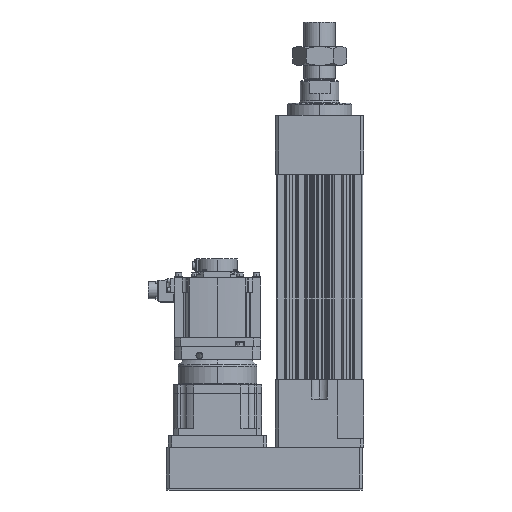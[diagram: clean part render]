
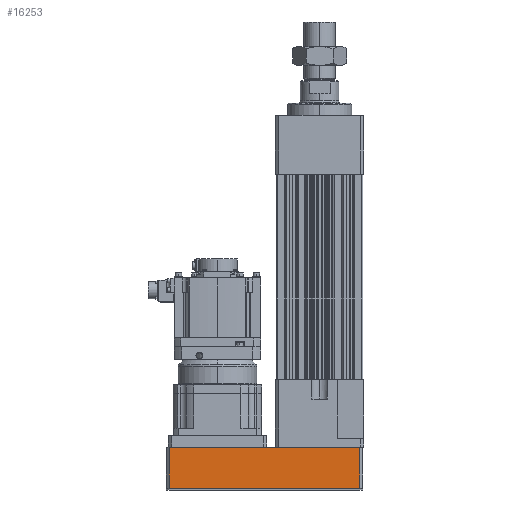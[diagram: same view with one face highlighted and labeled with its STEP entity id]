
A CAD part, left-side view. The second image highlights one B-rep face of the part: STEP entity #16253.
In plain terms, the highlighted planar face has unit normal (-1, 0, 0).
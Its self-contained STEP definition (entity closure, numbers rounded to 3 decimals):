
#169 = LINE ( 'NONE', #51107, #15032 ) ;
#1121 = AXIS2_PLACEMENT_3D ( 'NONE', #7954, #36911, #20633 ) ;
#1256 = CARTESIAN_POINT ( 'NONE',  ( -88., -82., -221.5 ) ) ;
#1890 = VECTOR ( 'NONE', #16634, 1000. ) ;
#1909 = CARTESIAN_POINT ( 'NONE',  ( -88., 306., -221.5 ) ) ;
#2976 = ORIENTED_EDGE ( 'NONE', *, *, #13399, .F. ) ;
#4490 = FACE_OUTER_BOUND ( 'NONE', #36728, .T. ) ;
#6521 = DIRECTION ( 'NONE',  ( 0., 0., 1. ) ) ;
#6634 = VERTEX_POINT ( 'NONE', #13767 ) ;
#7111 = EDGE_CURVE ( 'NONE', #20193, #24735, #37661, .T. ) ;
#7954 = CARTESIAN_POINT ( 'NONE',  ( -88., -82., -222. ) ) ;
#8496 = CARTESIAN_POINT ( 'NONE',  ( -88., -82., -138.5 ) ) ;
#9050 = EDGE_CURVE ( 'NONE', #32847, #6634, #14157, .T. ) ;
#13399 = EDGE_CURVE ( 'NONE', #20193, #6634, #44888, .T. ) ;
#13767 = CARTESIAN_POINT ( 'NONE',  ( -88., 306., -138.5 ) ) ;
#14157 = LINE ( 'NONE', #8496, #1890 ) ;
#14312 = VECTOR ( 'NONE', #18773, 1000. ) ;
#15032 = VECTOR ( 'NONE', #6521, 1000. ) ;
#16253 = ADVANCED_FACE ( 'NONE', ( #4490 ), #32759, .F. ) ;
#16634 = DIRECTION ( 'NONE',  ( 0., 1., 0. ) ) ;
#18098 = ORIENTED_EDGE ( 'NONE', *, *, #42753, .T. ) ;
#18773 = DIRECTION ( 'NONE',  ( 0., -1., 0. ) ) ;
#20193 = VERTEX_POINT ( 'NONE', #1909 ) ;
#20633 = DIRECTION ( 'NONE',  ( 0., 0., -1. ) ) ;
#21999 = ORIENTED_EDGE ( 'NONE', *, *, #7111, .T. ) ;
#22846 = VECTOR ( 'NONE', #49340, 1000. ) ;
#24735 = VERTEX_POINT ( 'NONE', #33376 ) ;
#28779 = CARTESIAN_POINT ( 'NONE',  ( -88., -82., -138.5 ) ) ;
#32759 = PLANE ( 'NONE',  #1121 ) ;
#32847 = VERTEX_POINT ( 'NONE', #28779 ) ;
#33376 = CARTESIAN_POINT ( 'NONE',  ( -88., -82., -221.5 ) ) ;
#36728 = EDGE_LOOP ( 'NONE', ( #2976, #21999, #18098, #38945 ) ) ;
#36911 = DIRECTION ( 'NONE',  ( 1., 0., 0. ) ) ;
#37661 = LINE ( 'NONE', #1256, #14312 ) ;
#38945 = ORIENTED_EDGE ( 'NONE', *, *, #9050, .T. ) ;
#42753 = EDGE_CURVE ( 'NONE', #24735, #32847, #169, .T. ) ;
#44888 = LINE ( 'NONE', #49172, #22846 ) ;
#49172 = CARTESIAN_POINT ( 'NONE',  ( -88., 306., -222. ) ) ;
#49340 = DIRECTION ( 'NONE',  ( 0., 0., 1. ) ) ;
#51107 = CARTESIAN_POINT ( 'NONE',  ( -88., -82., -222. ) ) ;
